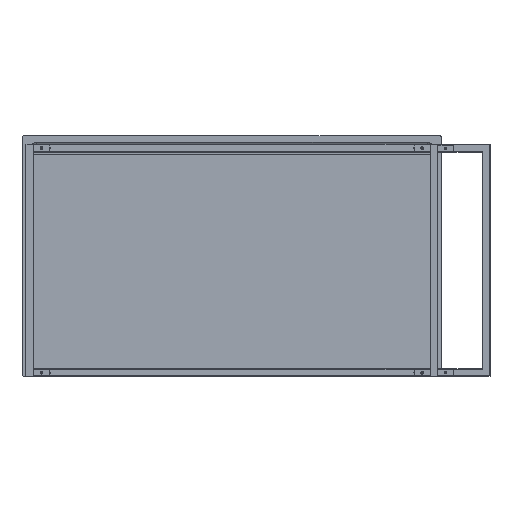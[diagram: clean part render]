
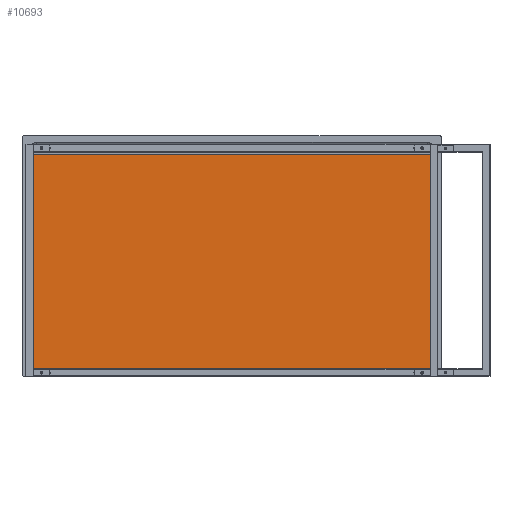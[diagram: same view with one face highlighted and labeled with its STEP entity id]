
A CAD part, front view. The second image highlights one B-rep face of the part: STEP entity #10693.
In plain terms, the highlighted planar face has unit normal (0, -1, 0).
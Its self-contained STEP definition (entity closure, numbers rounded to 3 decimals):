
#683 = VERTEX_POINT ( 'NONE', #10309 ) ;
#695 = EDGE_CURVE ( 'NONE', #28997, #683, #6369, .T. ) ;
#1009 = VECTOR ( 'NONE', #8760, 1000. ) ;
#1262 = FACE_OUTER_BOUND ( 'NONE', #3758, .T. ) ;
#3447 = ORIENTED_EDGE ( 'NONE', *, *, #30116, .T. ) ;
#3758 = EDGE_LOOP ( 'NONE', ( #14963, #9412, #3447, #30105 ) ) ;
#3923 = CARTESIAN_POINT ( 'NONE',  ( -380., -125., -425. ) ) ;
#4820 = DIRECTION ( 'NONE',  ( 1., 0., 0. ) ) ;
#5071 = AXIS2_PLACEMENT_3D ( 'NONE', #28442, #31088, #23278 ) ;
#5437 = LINE ( 'NONE', #31900, #18980 ) ;
#5928 = LINE ( 'NONE', #33262, #1009 ) ;
#6369 = LINE ( 'NONE', #11699, #32049 ) ;
#8461 = VERTEX_POINT ( 'NONE', #35058 ) ;
#8760 = DIRECTION ( 'NONE',  ( 1., 0., 0. ) ) ;
#9412 = ORIENTED_EDGE ( 'NONE', *, *, #695, .F. ) ;
#10309 = CARTESIAN_POINT ( 'NONE',  ( -380., -125., 0. ) ) ;
#10693 = ADVANCED_FACE ( 'NONE', ( #1262 ), #12441, .T. ) ;
#11699 = CARTESIAN_POINT ( 'NONE',  ( -380., -125., -425. ) ) ;
#12441 = PLANE ( 'NONE',  #5071 ) ;
#13650 = CARTESIAN_POINT ( 'NONE',  ( 380., -125., 0. ) ) ;
#14963 = ORIENTED_EDGE ( 'NONE', *, *, #34801, .F. ) ;
#18980 = VECTOR ( 'NONE', #21413, 1000. ) ;
#21413 = DIRECTION ( 'NONE',  ( 0., 0., 1. ) ) ;
#21427 = VERTEX_POINT ( 'NONE', #13650 ) ;
#22090 = EDGE_CURVE ( 'NONE', #8461, #21427, #5437, .T. ) ;
#23278 = DIRECTION ( 'NONE',  ( 0., 0., -1. ) ) ;
#28442 = CARTESIAN_POINT ( 'NONE',  ( -380., -125., -425. ) ) ;
#28997 = VERTEX_POINT ( 'NONE', #3923 ) ;
#29149 = CARTESIAN_POINT ( 'NONE',  ( -380., -125., 0. ) ) ;
#29312 = VECTOR ( 'NONE', #4820, 1000. ) ;
#30105 = ORIENTED_EDGE ( 'NONE', *, *, #22090, .T. ) ;
#30116 = EDGE_CURVE ( 'NONE', #28997, #8461, #5928, .T. ) ;
#31088 = DIRECTION ( 'NONE',  ( 0., -1., 0. ) ) ;
#31807 = LINE ( 'NONE', #29149, #29312 ) ;
#31900 = CARTESIAN_POINT ( 'NONE',  ( 380., -125., -425. ) ) ;
#32049 = VECTOR ( 'NONE', #33538, 1000. ) ;
#33262 = CARTESIAN_POINT ( 'NONE',  ( -380., -125., -425. ) ) ;
#33538 = DIRECTION ( 'NONE',  ( 0., 0., 1. ) ) ;
#34801 = EDGE_CURVE ( 'NONE', #683, #21427, #31807, .T. ) ;
#35058 = CARTESIAN_POINT ( 'NONE',  ( 380., -125., -425. ) ) ;
